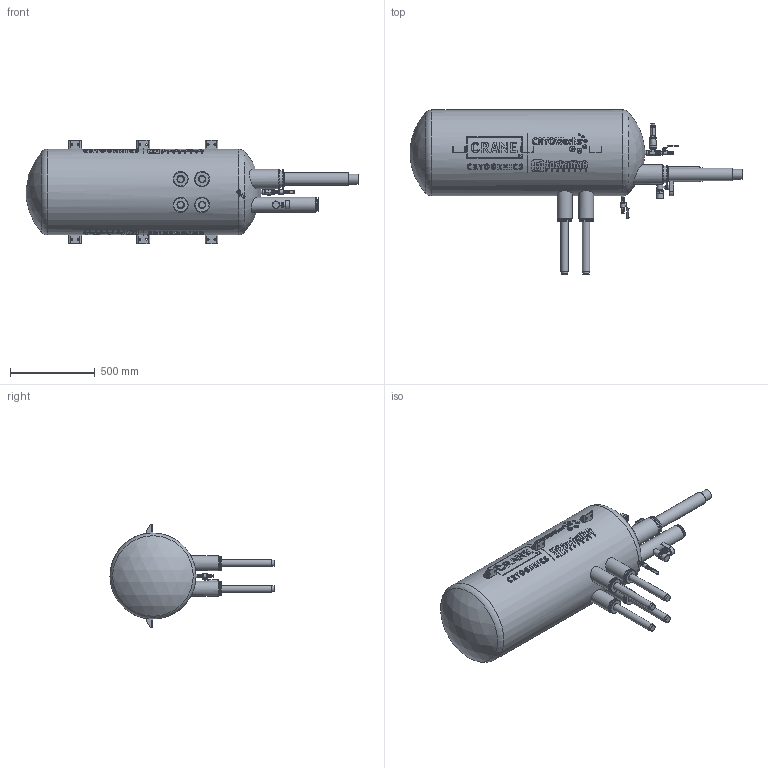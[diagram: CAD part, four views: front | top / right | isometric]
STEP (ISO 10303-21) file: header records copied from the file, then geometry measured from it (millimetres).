
FILE_DESCRIPTION (( 'STEP AP203' ), '1' );
FILE_NAME ('CA01728 CryoWorks High Flow Phase Separator 4 Outlet REV E.STEP', '2026-02-06T22:02:21', ( '' ), ( '' ), 'SwSTEP 2.0', 'SolidWorks 2023', '' );
FILE_SCHEMA (( 'CONFIG_CONTROL_DESIGN' ));
Length unit declared in the file: inch
Products named in the file (1): CA01728 CryoWorks High Flow Phase Separator 4 Outlet REV E
Bounding box: 1962.66 x 969.96 x 611.06 mm (x, y, z)
Volume: 272467234.6 mm3; surface area: 3243844.6 mm2
Topology: 1 solids, 13 shells, 2505 faces, 6349 edges, 4084 vertices
Faces by surface type: plane 1171, cylinder 641, cone 452, bspline 202, torus 27, sphere 12
Full cylindrical faces by diameter (mm): 4.66 x2, 4.75 x2, 4.775 x1, 5.105 x2, 5.527 x14, 5.546 x2, 6.221 x14, 6.272 x4, 6.35 x4, 6.362 x2, 7.112 x1, 7.183 x2, 7.976 x2, 9.188 x2, 9.246 x3, 9.257 x2, 9.525 x12, 9.58 x2, 9.842 x2, 10.262 x1, 10.635 x2, 11.1 x1, 11.112 x6, 11.333 x2, 11.879 x2, 12.494 x2, 12.508 x2, 12.7 x1, 13.494 x2, 14.267 x2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
Entity records: 175641 total; most frequent: CARTESIAN_POINT 121863, ORIENTED_EDGE 11570, DIRECTION 9787, EDGE_CURVE 5785, VERTEX_POINT 3912, AXIS2_PLACEMENT_3D 3713, EDGE_LOOP 3195, FACE_OUTER_BOUND 2699
